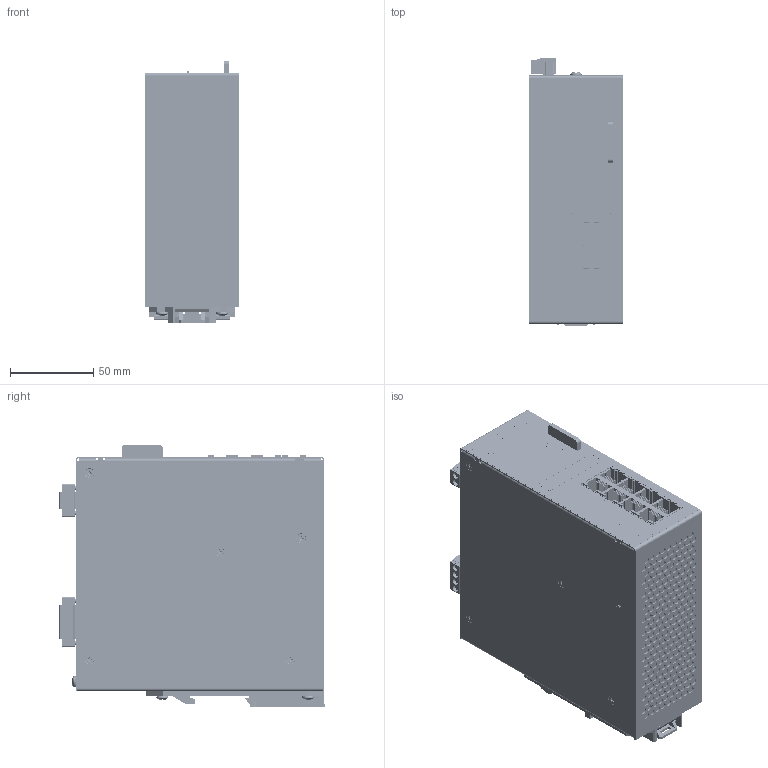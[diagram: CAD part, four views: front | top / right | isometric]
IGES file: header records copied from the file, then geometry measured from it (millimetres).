
Start section: SolidWorks IGES file using analytic representation for surfaces
Global section: file name: W:\Teams\Mech\SE data\Product_Lines\Customer 3D Models (Step files)\Switches\NT24K\NT24K-8TX\NT24k-8TX - IGES - Parasolid - STEP\IGES\NT24k-8TX.IGS; native system: SolidWorks 2022; preprocessor: SolidWorks 2022; author: joseph.cirabisi; date: 230213.111250; units: inch
Bounding box: 56.44 x 160.18 x 157.37 mm (x, y, z)
Surface area: 281716.5 mm2 (no closed solid volume)
Topology: 0 solids, 0 shells, 5136 faces, 72467 edges, 72453 vertices
Faces by surface type: bspline 3157, revolution 1979
